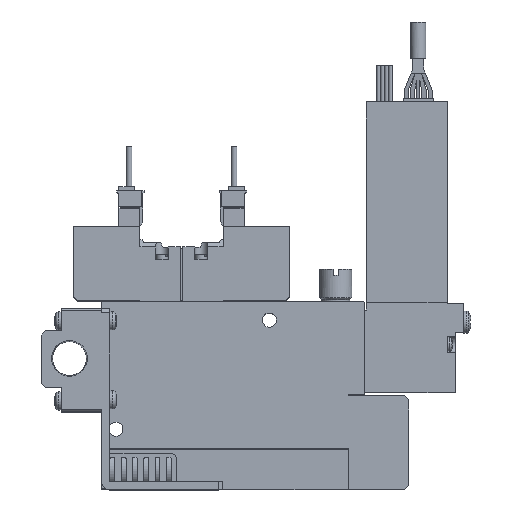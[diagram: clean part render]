
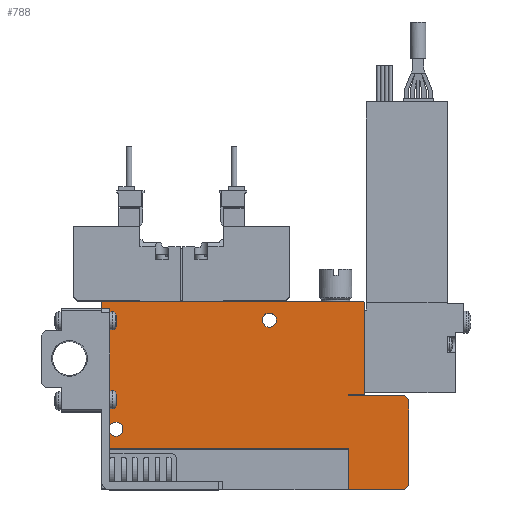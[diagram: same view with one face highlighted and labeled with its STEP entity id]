
A CAD part, top view. The second image highlights one B-rep face of the part: STEP entity #788.
In plain terms, the highlighted planar face has unit normal (0, 0, 1).
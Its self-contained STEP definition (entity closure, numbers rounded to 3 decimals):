
#788=ADVANCED_FACE('',(#1925,#1926,#1927),#1928,.F.);
#1925=FACE_OUTER_BOUND('',#3356,.T.);
#1926=FACE_BOUND('',#3357,.T.);
#1927=FACE_BOUND('',#3358,.T.);
#1928=PLANE('',#3359);
#3356=EDGE_LOOP('',(#7337,#7338,#7339,#7340,#7341,#7342,#7343,#7344,#7345,#7346,#7347,#7348,#7349,#7350));
#3357=EDGE_LOOP('',(#7351));
#3358=EDGE_LOOP('',(#7352));
#3359=AXIS2_PLACEMENT_3D('',#7353,#7354,#7355);
#7337=ORIENTED_EDGE('',*,*,#10200,.T.);
#7338=ORIENTED_EDGE('',*,*,#10262,.F.);
#7339=ORIENTED_EDGE('',*,*,#9986,.F.);
#7340=ORIENTED_EDGE('',*,*,#10263,.T.);
#7341=ORIENTED_EDGE('',*,*,#10137,.T.);
#7342=ORIENTED_EDGE('',*,*,#10121,.T.);
#7343=ORIENTED_EDGE('',*,*,#10115,.T.);
#7344=ORIENTED_EDGE('',*,*,#10157,.T.);
#7345=ORIENTED_EDGE('',*,*,#10264,.T.);
#7346=ORIENTED_EDGE('',*,*,#10213,.T.);
#7347=ORIENTED_EDGE('',*,*,#10101,.T.);
#7348=ORIENTED_EDGE('',*,*,#10265,.T.);
#7349=ORIENTED_EDGE('',*,*,#10191,.T.);
#7350=ORIENTED_EDGE('',*,*,#9990,.T.);
#7351=ORIENTED_EDGE('',*,*,#10266,.F.);
#7352=ORIENTED_EDGE('',*,*,#10123,.F.);
#7353=CARTESIAN_POINT('',(0.0,0.0,5.0));
#7354=DIRECTION('',(0.0,0.0,-1.0));
#7355=DIRECTION('',(0.0,-1.0,0.0));
#9986=EDGE_CURVE('',#12255,#12257,#12258,.T.);
#9990=EDGE_CURVE('',#12265,#12263,#12266,.T.);
#10101=EDGE_CURVE('',#12470,#12468,#12471,.T.);
#10115=EDGE_CURVE('',#12496,#12494,#12497,.T.);
#10121=EDGE_CURVE('',#12507,#12496,#12508,.T.);
#10123=EDGE_CURVE('',#12510,#12510,#12511,.T.);
#10137=EDGE_CURVE('',#12534,#12507,#12535,.T.);
#10157=EDGE_CURVE('',#12494,#12566,#12568,.T.);
#10191=EDGE_CURVE('',#12628,#12265,#12629,.T.);
#10200=EDGE_CURVE('',#12263,#12640,#12642,.T.);
#10213=EDGE_CURVE('',#12663,#12470,#12664,.T.);
#10262=EDGE_CURVE('',#12257,#12640,#12741,.T.);
#10263=EDGE_CURVE('',#12255,#12534,#12742,.T.);
#10264=EDGE_CURVE('',#12566,#12663,#12743,.T.);
#10265=EDGE_CURVE('',#12468,#12628,#12744,.T.);
#10266=EDGE_CURVE('',#12745,#12745,#12746,.T.);
#12255=VERTEX_POINT('',#15983);
#12257=VERTEX_POINT('',#15986);
#12258=LINE('',#15987,#15988);
#12263=VERTEX_POINT('',#15995);
#12265=VERTEX_POINT('',#15998);
#12266=LINE('',#15999,#16000);
#12468=VERTEX_POINT('',#16386);
#12470=VERTEX_POINT('',#16389);
#12471=LINE('',#16390,#16391);
#12494=VERTEX_POINT('',#16433);
#12496=VERTEX_POINT('',#16436);
#12497=LINE('',#16437,#16438);
#12507=VERTEX_POINT('',#16453);
#12508=LINE('',#16454,#16455);
#12510=VERTEX_POINT('',#16458);
#12511=CIRCLE('',#16459,1.75);
#12534=VERTEX_POINT('',#16495);
#12535=LINE('',#16496,#16497);
#12566=VERTEX_POINT('',#16550);
#12568=LINE('',#16553,#16554);
#12628=VERTEX_POINT('',#16649);
#12629=LINE('',#16650,#16651);
#12640=VERTEX_POINT('',#16667);
#12642=LINE('',#16670,#16671);
#12663=VERTEX_POINT('',#16704);
#12664=LINE('',#16705,#16706);
#12741=LINE('',#16823,#16824);
#12742=LINE('',#16825,#16826);
#12743=LINE('',#16827,#16828);
#12744=LINE('',#16829,#16830);
#12745=VERTEX_POINT('',#16831);
#12746=CIRCLE('',#16832,1.75);
#15983=CARTESIAN_POINT('',(61.1,0.0,5.0));
#15986=CARTESIAN_POINT('',(61.1,10.1,5.0));
#15987=CARTESIAN_POINT('',(61.1,0.0,5.0));
#15988=VECTOR('',#19549,1.0);
#15995=CARTESIAN_POINT('',(0.0,46.4,5.0));
#15998=CARTESIAN_POINT('',(0.2,46.6,5.0));
#15999=CARTESIAN_POINT('',(0.2,46.6,5.0));
#16000=VECTOR('',#19553,1.0);
#16386=CARTESIAN_POINT('',(65.0,46.4,5.0));
#16389=CARTESIAN_POINT('',(65.0,23.5,5.0));
#16390=CARTESIAN_POINT('',(65.0,23.5,5.0));
#16391=VECTOR('',#19706,1.0);
#16433=CARTESIAN_POINT('',(75.0,23.25,5.0));
#16436=CARTESIAN_POINT('',(76.0,22.25,5.0));
#16437=CARTESIAN_POINT('',(76.0,22.25,5.0));
#16438=VECTOR('',#19723,1.0);
#16453=CARTESIAN_POINT('',(76.0,1.0,5.0));
#16454=CARTESIAN_POINT('',(76.0,1.0,5.0));
#16455=VECTOR('',#19729,1.0);
#16458=CARTESIAN_POINT('',(43.25,42.0,5.0));
#16459=AXIS2_PLACEMENT_3D('',#19731,#19732,#19733);
#16495=CARTESIAN_POINT('',(75.0,0.0,5.0));
#16496=CARTESIAN_POINT('',(75.0,0.0,5.0));
#16497=VECTOR('',#19747,1.0);
#16550=CARTESIAN_POINT('',(61.0,23.25,5.0));
#16553=CARTESIAN_POINT('',(75.0,23.25,5.0));
#16554=VECTOR('',#19774,1.0);
#16649=CARTESIAN_POINT('',(64.8,46.6,5.0));
#16650=CARTESIAN_POINT('',(64.8,46.6,5.0));
#16651=VECTOR('',#19819,1.0);
#16667=CARTESIAN_POINT('',(0.0,10.1,5.0));
#16670=CARTESIAN_POINT('',(0.0,46.4,5.0));
#16671=VECTOR('',#19832,1.0);
#16704=CARTESIAN_POINT('',(61.0,23.5,5.0));
#16705=CARTESIAN_POINT('',(61.0,23.5,5.0));
#16706=VECTOR('',#19845,1.0);
#16823=CARTESIAN_POINT('',(61.1,10.1,5.0));
#16824=VECTOR('',#19910,1.0);
#16825=CARTESIAN_POINT('',(0.0,0.0,5.0));
#16826=VECTOR('',#19911,1.0);
#16827=CARTESIAN_POINT('',(61.0,23.25,5.0));
#16828=VECTOR('',#19912,1.0);
#16829=CARTESIAN_POINT('',(65.0,46.4,5.0));
#16830=VECTOR('',#19913,1.0);
#16831=CARTESIAN_POINT('',(5.25,15.0,5.0));
#16832=AXIS2_PLACEMENT_3D('',#19914,#19915,#19916);
#19549=DIRECTION('',(0.0,1.0,0.0));
#19553=DIRECTION('',(-0.707,-0.707,0.0));
#19706=DIRECTION('',(0.0,1.0,0.0));
#19723=DIRECTION('',(-0.707,0.707,0.0));
#19729=DIRECTION('',(0.0,1.0,0.0));
#19731=CARTESIAN_POINT('',(41.5,42.0,5.0));
#19732=DIRECTION('',(0.0,0.0,1.0));
#19733=DIRECTION('',(1.0,0.0,0.0));
#19747=DIRECTION('',(0.707,0.707,0.0));
#19774=DIRECTION('',(-1.0,0.0,0.0));
#19819=DIRECTION('',(-1.0,0.0,0.0));
#19832=DIRECTION('',(0.0,-1.0,0.0));
#19845=DIRECTION('',(1.0,0.,0.0));
#19910=DIRECTION('',(-1.0,0.0,0.0));
#19911=DIRECTION('',(1.0,0.0,0.0));
#19912=DIRECTION('',(0.0,1.0,0.0));
#19913=DIRECTION('',(-0.707,0.707,0.0));
#19914=CARTESIAN_POINT('',(3.5,15.0,5.0));
#19915=DIRECTION('',(0.0,0.0,1.0));
#19916=DIRECTION('',(1.0,0.0,0.0));
